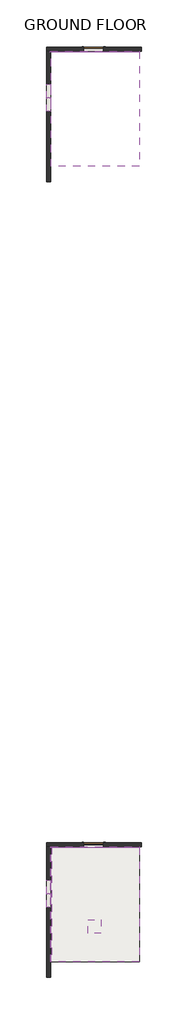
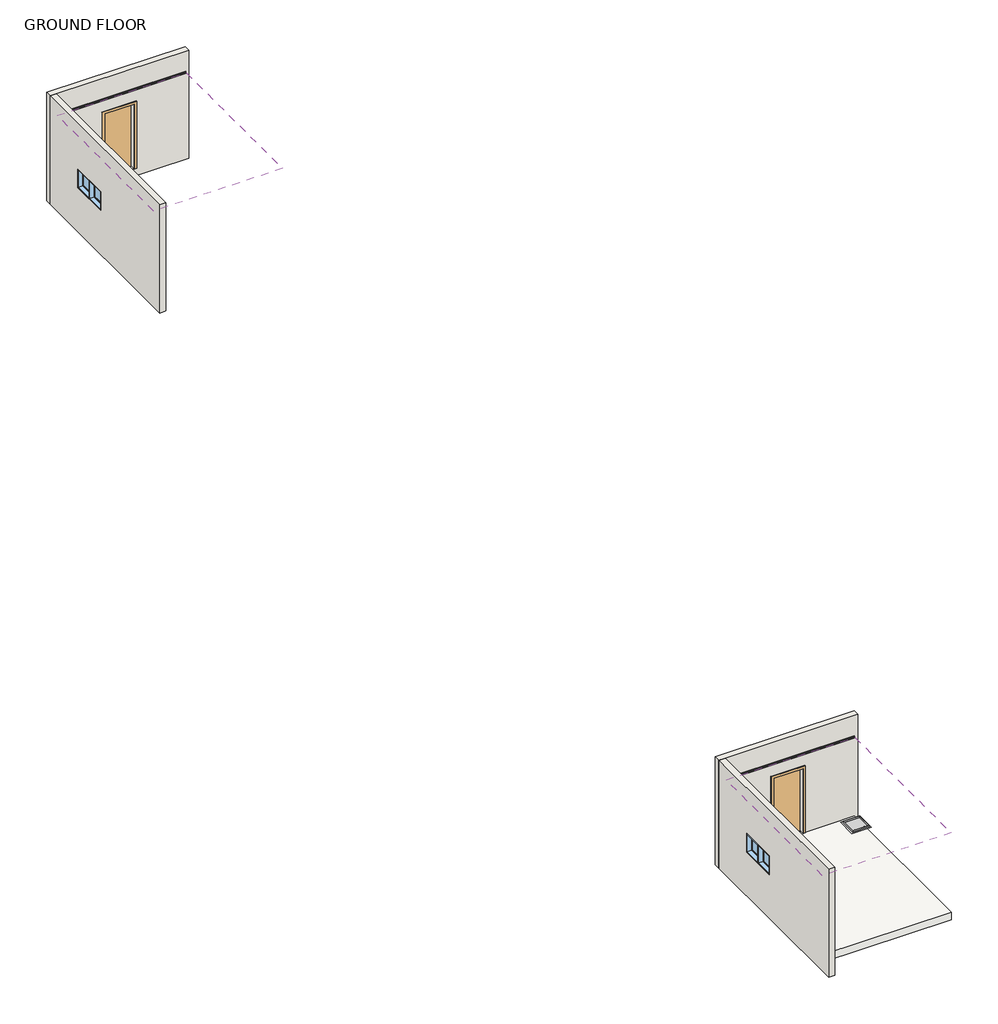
# One storey: 4 proxies, 4 walls, 4 windows, 3 coverings, 2 doors, 1 slab.
"""IFC4 building model written with IfcOpenShell, lengths in millimetres."""

from ifc_helpers import new_model, si_unit, point, frame, frame_2d, origin, place, context, project, spatial, polyline, circle_curve, trimmed, segment, composite_curve, outline, extrude, faceted_brep, transform, mapped, element, save
from components import m_single_flush_0915_x_2134mm_f5238887, m_fixed_0610_x_0610mm_09852ef8

model = new_model("IFC4")

# Units and contexts
model_context = context("Model", 3, world=origin())
ifc_project = project(units=[si_unit("LENGTHUNIT", "METRE", prefix="MILLI")], contexts=[model_context])

# Site, building, storey
site = spatial("IfcSite", under=ifc_project)
building = spatial("IfcBuilding", under=site)
storey = spatial("IfcBuildingStorey", under=building, Name="GROUND FLOOR", Elevation=0.0)

# Proxies
placement = place(None, origin())
element("IfcBuildingElementProxy", 1, Name="Ceiling_Access_HatchPanel_Parametric : Bottom Hung", ObjectType="Ceiling_Access_HatchPanel_Parametric : Bottom Hung", at=placement, inside=storey, context=model_context, shape_type="SolidModel", body=[
    faceted_brep([(107182.6212716, 2875.9489557, 2650.0), (107182.6212716, 2365.2489557, 2650.0), (107693.3212716, 2365.2489557, 2650.0), (107693.3212716, 2875.9489557, 2650.0), (107188.9712716, 2869.5989557, 2650.0), (107686.9712716, 2869.5989557, 2650.0), (107686.9712716, 2371.5989557, 2650.0), (107188.9712716, 2371.5989557, 2650.0), (107182.6212716, 2875.9489557, 2600.0), (107693.3212716, 2875.9489557, 2600.0), (107693.3212716, 2365.2489557, 2600.0), (107182.6212716, 2365.2489557, 2600.0), (107188.9712716, 2869.5989557, 2600.0), (107188.9712716, 2371.5989557, 2600.0), (107686.9712716, 2371.5989557, 2600.0), (107686.9712716, 2869.5989557, 2600.0), (107182.6212716, 2875.9489557, 2611.0), (107182.6212716, 2365.2489557, 2611.0), (107693.3212716, 2365.2489557, 2611.0), (107693.3212716, 2875.9489557, 2611.0)], [[[0, 1, 2, 3], [4, 5, 6, 7]], [[8, 9, 10, 11], [12, 13, 14, 15]], [[5, 4, 12, 15]], [[6, 5, 15, 14]], [[7, 6, 14, 13]], [[4, 7, 13, 12]], [[1, 0, 16, 8, 11, 17]], [[2, 1, 17, 11, 10, 18]], [[3, 2, 18, 10, 9, 19]], [[0, 3, 19, 9, 8, 16]]]),
    extrude(outline(polyline([(107188.9712716, 2869.5989557), (107686.9712716, 2869.5989557), (107686.9712716, 2371.5989557), (107188.9712716, 2371.5989557), (107188.9712716, 2869.5989557)])), frame((0.0, 0.0, 2593.65), z_axis=(0.0, 0.0, 1.0), x_axis=(1.0, 0.0, 0.0)), (0.0, 0.0, 1.0), 6.35),
    faceted_brep([(107188.9712716, 2869.5989557, 2600.0), (107188.9712716, 2869.5989557, 2590.475), (107686.9712716, 2869.5989557, 2590.475), (107686.9712716, 2869.5989557, 2600.0), (107686.9712716, 2371.5989557, 2590.475), (107686.9712716, 2371.5989557, 2600.0), (107188.9712716, 2371.5989557, 2590.475), (107188.9712716, 2371.5989557, 2600.0), (107725.0712716, 2907.6989557, 2590.475), (107725.0712716, 2333.4989557, 2590.475), (107150.8712716, 2333.4989557, 2590.475), (107150.8712716, 2907.6989557, 2590.475), (107138.1712716, 2920.3989557, 2600.0), (107138.1712716, 2320.7989557, 2600.0), (107737.7712716, 2320.7989557, 2600.0), (107737.7712716, 2920.3989557, 2600.0)], [[[0, 1, 2, 3]], [[3, 2, 4, 5]], [[5, 4, 6, 7]], [[8, 9, 10, 11], [1, 6, 4, 2]], [[12, 13, 14, 15], [3, 5, 7, 0]], [[7, 6, 1, 0]], [[11, 12, 15, 8]], [[8, 15, 14, 9]], [[9, 14, 13, 10]], [[10, 13, 12, 11]]]),
    extrude(outline(composite_curve([segment(trimmed(circle_curve(frame_2d((107278.9712716, 2437.9489557)), 10.0), [point((107278.9712716, 2427.9489557))], [point((107278.9712716, 2447.9489557))], False, "CARTESIAN"), True, "CONTINUOUS"), segment(trimmed(circle_curve(frame_2d((107278.9712716, 2437.9489557)), 10.0), [point((107278.9712716, 2447.9489557))], [point((107278.9712716, 2427.9489557))], False, "CARTESIAN"), True, "CONTINUOUS")], self_intersect=False)), frame((0.0, 0.0, 2593.65), z_axis=(0.0, 0.0, 1.0), x_axis=(1.0, 0.0, 0.0)), (0.0, 0.0, 1.0), 6.35),
    extrude(outline(composite_curve([segment(trimmed(circle_curve(frame_2d((107596.9712716, 2437.9489557)), 10.0), [point((107596.9712716, 2427.9489557))], [point((107596.9712716, 2447.9489557))], False, "CARTESIAN"), True, "CONTINUOUS"), segment(trimmed(circle_curve(frame_2d((107596.9712716, 2437.9489557)), 10.0), [point((107596.9712716, 2447.9489557))], [point((107596.9712716, 2427.9489557))], False, "CARTESIAN"), True, "CONTINUOUS")], self_intersect=False)), frame((0.0, 0.0, 2593.65), z_axis=(0.0, 0.0, 1.0), x_axis=(1.0, 0.0, 0.0)), (0.0, 0.0, 1.0), 6.35),
])
element("IfcBuildingElementProxy", 2, Name="TR01 : Pelican Systems Shadowline used with econogrid", ObjectType="TR01 : Pelican Systems Shadowline used with econogrid", at=placement, inside=storey, context=model_context, shape_type="Brep", body=[
    faceted_brep([(109460.7345529, 6217.9193804, 2639.0), (109460.7345529, 6216.9193804, 2639.0), (109460.7345529, 6216.9193804, 2619.0), (109460.7345529, 6196.9193804, 2619.0), (109460.7345529, 6196.9193804, 2600.0), (109460.7345529, 6176.9193804, 2600.0), (109460.7345529, 6176.9193804, 2599.0), (109460.7345529, 6197.9193804, 2599.0), (109460.7345529, 6197.9193804, 2618.0), (109460.7345529, 6217.9193804, 2618.0), (105415.7345529, 6217.9193804, 2639.0), (105415.7345529, 6217.9193804, 2618.0), (105415.7345529, 6197.9193804, 2618.0), (105415.7345529, 6197.9193804, 2599.0), (105415.7345529, 6176.9193804, 2599.0), (105415.7345529, 6176.9193804, 2600.0), (105415.7345529, 6196.9193804, 2600.0), (105415.7345529, 6196.9193804, 2619.0), (105415.7345529, 6216.9193804, 2619.0), (105415.7345529, 6216.9193804, 2639.0), (105443.7345529, 6217.9193804, 2618.0), (105443.7345529, 6217.9193804, 2634.0), (105442.7345529, 6217.9193804, 2634.0), (105442.7345529, 6217.9193804, 2618.0), (105443.7345529, 6197.9193804, 2618.0), (105463.7345529, 6197.9193804, 2599.0), (105463.7345529, 6197.9193804, 2614.0), (105443.7345529, 6197.9193804, 2614.0), (105463.7345529, 6176.9193804, 2599.0), (105443.7345529, 6196.9193804, 2619.0), (105443.7345529, 6196.9193804, 2614.0), (105463.7345529, 6196.9193804, 2614.0), (105463.7345529, 6196.9193804, 2600.0), (105442.7345529, 6216.9193804, 2634.0), (105442.7345529, 6216.9193804, 2619.0), (105442.7345529, 6196.9193804, 2619.0), (105442.7345529, 6196.9193804, 2613.0), (105442.7345529, 6197.9193804, 2613.0), (105442.7345529, 6197.9193804, 2618.0), (105462.7345529, 6196.9193804, 2613.0), (105462.7345529, 6197.9193804, 2613.0), (105462.7345529, 6196.9193804, 2600.0), (105462.7345529, 6176.9193804, 2600.0), (105462.7345529, 6176.9193804, 2599.0), (105462.7345529, 6197.9193804, 2599.0), (105463.7345529, 6176.9193804, 2600.0), (105443.7345529, 6216.9193804, 2619.0), (105443.7345529, 6216.9193804, 2634.0)], [[[0, 1, 2, 3, 4, 5, 6, 7, 8, 9]], [[10, 11, 12, 13, 14, 15, 16, 17, 18, 19]], [[0, 9, 20, 21, 22, 23, 11, 10]], [[9, 8, 24, 20]], [[8, 7, 25, 26, 27, 24]], [[7, 6, 28, 25]], [[4, 3, 29, 30, 31, 32]], [[22, 33, 34, 35, 36, 37, 38, 23]], [[37, 36, 39, 40]], [[40, 39, 41, 42, 43, 44]], [[31, 26, 25, 28, 45, 32]], [[26, 31, 30, 27]], [[27, 30, 29, 46, 47, 21, 20, 24]], [[6, 5, 45, 28]], [[5, 4, 32, 45]], [[3, 2, 46, 29]], [[2, 1, 19, 18, 34, 33, 47, 46]], [[1, 0, 10, 19]], [[12, 11, 23, 38]], [[18, 17, 35, 34]], [[33, 22, 21, 47]], [[13, 12, 38, 37, 40, 44]], [[14, 13, 44, 43]], [[17, 16, 41, 39, 36, 35]], [[15, 14, 43, 42]], [[16, 15, 42, 41]]]),
])
element("IfcBuildingElementProxy", 3, Name="TR01 : Pelican Systems Shadowline used with econogrid", ObjectType="TR01 : Pelican Systems Shadowline used with econogrid", at=placement, inside=storey, context=model_context, shape_type="Brep", body=[
    faceted_brep([(105442.7345529, 6217.9193804, 2634.0), (105443.7345529, 6217.9193804, 2634.0), (105443.7345529, 6217.9193804, 2618.0), (105443.7345529, 6217.9193804, 2614.0), (105463.7345529, 6217.9193804, 2614.0), (105463.7345529, 6217.9193804, 2595.0), (105483.7345529, 6217.9193804, 2595.0), (105483.7345529, 6217.9193804, 2594.0), (105462.7345529, 6217.9193804, 2594.0), (105462.7345529, 6217.9193804, 2613.0), (105442.7345529, 6217.9193804, 2613.0), (105442.7345529, 6217.9193804, 2618.0), (105442.7345529, 1012.9193804, 2634.0), (105442.7345529, 1012.9193804, 2613.0), (105462.7345529, 1012.9193804, 2613.0), (105462.7345529, 1012.9193804, 2594.0), (105483.7345529, 1012.9193804, 2594.0), (105483.7345529, 1012.9193804, 2595.0), (105463.7345529, 1012.9193804, 2595.0), (105463.7345529, 1012.9193804, 2614.0), (105443.7345529, 1012.9193804, 2614.0), (105443.7345529, 1012.9193804, 2634.0), (105442.7345529, 6197.9193804, 2613.0), (105442.7345529, 6196.9193804, 2613.0), (105442.7345529, 6216.9193804, 2634.0), (105462.7345529, 6197.9193804, 2613.0), (105462.7345529, 6196.9193804, 2613.0), (105463.7345529, 6197.9193804, 2614.0), (105463.7345529, 6196.9193804, 2614.0), (105443.7345529, 6197.9193804, 2614.0), (105443.7345529, 6196.9193804, 2614.0), (105443.7345529, 6216.9193804, 2634.0)], [[[0, 1, 2, 3, 4, 5, 6, 7, 8, 9, 10, 11]], [[12, 13, 14, 15, 16, 17, 18, 19, 20, 21]], [[10, 22, 23, 13, 12, 24, 0, 11]], [[9, 25, 26, 14, 13, 23, 22, 10]], [[8, 15, 14, 26, 25, 9]], [[7, 16, 15, 8]], [[4, 27, 28, 19, 18, 5]], [[6, 17, 16, 7]], [[5, 18, 17, 6]], [[3, 29, 30, 20, 19, 28, 27, 4]], [[1, 31, 21, 20, 30, 29, 3, 2]], [[0, 24, 12, 21, 31, 1]]]),
])
element("IfcBuildingElementProxy", 4, Name="TR01 : Pelican Systems Shadowline used with econogrid", ObjectType="TR01 : Pelican Systems Shadowline used with econogrid", at=placement, inside=storey, context=model_context, shape_type="SweptSolid", body=[
    extrude(outline(polyline([(42217.9193804, 2639.0), (42217.9193804, 2618.0), (42197.9193804, 2618.0), (42197.9193804, 2599.0), (42176.9193804, 2599.0), (42176.9193804, 2600.0), (42196.9193804, 2600.0), (42196.9193804, 2619.0), (42216.9193804, 2619.0), (42216.9193804, 2639.0), (42217.9193804, 2639.0)])), frame((105430.7345529, 0.0, 0.0), z_axis=(1.0, 0.0, 0.0), x_axis=(0.0, 1.0, 0.0)), (0.0, 0.0, 1.0), 4030.0),
])

# Coverings
element("IfcCovering", 5, ObjectType="_C2.3 - 12mm FLUSHPLASTER CEILING (UNDER CONCRETE SOFFIT)", at=placement, inside=storey, context=model_context, shape_type="SweptSolid", body=[
    extrude(outline(polyline([(105463.7345529, 6197.9193804), (109466.7345529, 6197.9193804), (109466.7345529, 1012.9193804), (105463.7345529, 1012.9193804), (105463.7345529, 6197.9193804)]), holes=[polyline([(107182.6212716, 2875.9489557), (107182.6212716, 2365.2489557), (107693.3212716, 2365.2489557), (107693.3212716, 2875.9489557), (107182.6212716, 2875.9489557)])]), frame((0.0, 0.0, 2600.0), z_axis=(0.0, 0.0, 1.0), x_axis=(1.0, 0.0, 0.0)), (0.0, 0.0, 1.0), 11.0),
])
element("IfcCovering", 6, ObjectType="AMF Thermatex® Star - 600x600mm", at=placement, inside=storey, context=model_context, shape_type="SweptSolid", body=[
    extrude(outline(polyline([(109470.7345529, 42196.9193804), (109470.7345529, 37012.9193804), (105463.7345529, 37012.9193804), (105463.7345529, 42196.9193804), (109470.7345529, 42196.9193804)])), frame((0.0, 0.0, 2600.0), z_axis=(0.0, 0.0, 1.0), x_axis=(1.0, 0.0, 0.0)), (0.0, 0.0, 1.0), 51.0),
])
element("IfcCovering", 7, ObjectType="AMF Thermatex® Star - 600x600mm 2", at=placement, inside=storey, context=model_context, shape_type="SweptSolid", body=[
    extrude(outline(polyline([(109466.7345529, 6197.9193804), (109466.7345529, 1012.9193804), (105463.7345529, 1012.9193804), (105463.7345529, 6197.9193804), (109466.7345529, 6197.9193804)])), frame((0.0, 0.0, 2600.0), z_axis=(0.0, 0.0, 1.0), x_axis=(1.0, 0.0, 0.0)), (0.0, 0.0, 1.0), 16.0),
])

# Doors
m_single_flush_0915_x_2134mm_shape = m_single_flush_0915_x_2134mm_f5238887(model_context)
element("IfcDoor", 8, ObjectType="M_Single-Flush : 0915 x 2134mm", at=placement, inside=storey, context=model_context, shape_type="MappedRepresentation", body=[
    mapped(m_single_flush_0915_x_2134mm_shape, transform((107394.7345529, 6312.9193804, 0.0), x_axis=(1.0, 0.0, 0.0), y_axis=(0.0, 1.0, 0.0), z_axis=(0.0, 0.0, 1.0))),
])
element("IfcDoor", 9, ObjectType="M_Single-Flush : 0915 x 2134mm", at=placement, inside=storey, context=model_context, shape_type="MappedRepresentation", body=[
    mapped(m_single_flush_0915_x_2134mm_shape, transform((107394.7345529, 42312.9193804, 0.0), x_axis=(1.0, 0.0, 0.0), y_axis=(0.0, 1.0, 0.0), z_axis=(0.0, 0.0, 1.0))),
])

# Slab
element("IfcSlab", 10, ObjectType="Generic Floor - 250mm", at=placement, inside=storey, context=model_context, shape_type="Brep", body=[
    faceted_brep([(105366.7345529, 6312.9193804, -250.0), (109466.7345529, 6312.9193804, -250.0), (109466.7345529, 6217.9193804, -250.0), (109466.7345529, 1012.9193804, -250.0), (105366.7345529, 1012.9193804, -250.0), (105366.7345529, 6217.9193804, -250.0), (105366.7345529, 6312.9193804, 0.0), (105366.7345529, 6217.9193804, 0.0), (105366.7345529, 1012.9193804, 0.0), (109466.7345529, 1012.9193804, 0.0), (109466.7345529, 6217.9193804, 0.0), (109466.7345529, 6312.9193804, 0.0), (107852.2345529, 6312.9193804, 0.0), (106937.2345529, 6312.9193804, 0.0)], [[[0, 1, 2, 3, 4, 5]], [[6, 7, 8, 9, 10, 11, 12, 13]], [[1, 0, 6, 13, 12, 11]], [[3, 2, 1, 11, 10, 9]], [[4, 3, 9, 8]], [[0, 5, 4, 8, 7, 6]]]),
])

# Walls
element("IfcWall", 11, ObjectType="190mm MAXI BLOCK- plastered", at=placement, inside=storey, context=model_context, shape_type="Brep", body=[
    faceted_brep([(109561.7345529, 6217.9193804, -250.0), (109561.7345529, 6217.9193804, 3300.0), (105442.7345529, 6217.9193804, 3300.0), (105252.7345529, 6217.9193804, 3300.0), (105252.7345529, 6217.9193804, -250.0), (105366.7345529, 6217.9193804, -250.0), (105366.7345529, 6217.9193804, 0.0), (106937.2345529, 6217.9193804, 0.0), (106937.2345529, 6217.9193804, 2134.0), (107852.2345529, 6217.9193804, 2134.0), (107852.2345529, 6217.9193804, 0.0), (109466.7345529, 6217.9193804, 0.0), (109466.7345529, 6217.9193804, -250.0), (109561.7345529, 6407.9193804, -250.0), (105252.7345529, 6407.9193804, -250.0), (105252.7345529, 6407.9193804, 3300.0), (109561.7345529, 6407.9193804, 3300.0), (106937.2345529, 6407.9193804, 0.0), (107852.2345529, 6407.9193804, 0.0), (107852.2345529, 6407.9193804, 2134.0), (106937.2345529, 6407.9193804, 2134.0), (109466.7345529, 6312.9193804, -250.0), (105366.7345529, 6312.9193804, -250.0), (106937.2345529, 6312.9193804, 0.0), (107852.2345529, 6312.9193804, 0.0), (105366.7345529, 6312.9193804, 0.0), (109466.7345529, 6312.9193804, 0.0)], [[[0, 1, 2, 3, 4, 5, 6, 7, 8, 9, 10, 11, 12]], [[13, 14, 15, 16], [17, 18, 19, 20]], [[14, 13, 0, 12, 21, 22, 5, 4]], [[1, 0, 13, 16]], [[3, 2, 1, 16, 15]], [[18, 17, 23, 24]], [[19, 18, 24, 10, 9]], [[20, 19, 9, 8]], [[17, 20, 8, 7, 23]], [[25, 23, 7, 6]], [[24, 26, 11, 10]], [[25, 22, 21, 26, 24, 23]], [[22, 25, 6, 5]], [[26, 21, 12, 11]], [[4, 3, 15, 14]]]),
])
element("IfcWall", 12, ObjectType="190mm MAXI BLOCK- plastered", at=placement, inside=storey, context=model_context, shape_type="Brep", body=[
    faceted_brep([(105442.7345529, 312.9193804, -250.0), (105442.7345529, 6217.9193804, -250.0), (105442.7345529, 6217.9193804, 3300.0), (105442.7345529, 312.9193804, 3300.0), (105442.7345529, 3497.9193804, 1810.0), (105442.7345529, 4717.9193804, 1810.0), (105442.7345529, 4717.9193804, 1200.0), (105442.7345529, 3497.9193804, 1200.0), (105252.7345529, 6217.9193804, -250.0), (105252.7345529, 312.9193804, -250.0), (105252.7345529, 312.9193804, 3300.0), (105252.7345529, 6217.9193804, 3300.0), (105252.7345529, 3497.9193804, 1200.0), (105252.7345529, 4717.9193804, 1200.0), (105252.7345529, 4717.9193804, 1810.0), (105252.7345529, 3497.9193804, 1810.0), (105366.7345529, 6217.9193804, -250.0)], [[[0, 1, 2, 3], [4, 5, 6, 7]], [[8, 9, 10, 11], [12, 13, 14, 15]], [[1, 0, 9, 8, 16]], [[3, 2, 11, 10]], [[0, 3, 10, 9]], [[2, 1, 16, 8, 11]], [[14, 13, 6, 5]], [[14, 5, 4, 15]], [[12, 7, 6, 13]], [[15, 4, 7, 12]]]),
])
element("IfcWall", 13, ObjectType="190mm MAXI BLOCK- plastered", at=placement, inside=storey, context=model_context, shape_type="Brep", body=[
    faceted_brep([(105252.7345529, 42217.9193804, -250.0), (105442.7345529, 42217.9193804, -250.0), (109561.7345529, 42217.9193804, -250.0), (109561.7345529, 42217.9193804, 3300.0), (105442.7345529, 42217.9193804, 3300.0), (105252.7345529, 42217.9193804, 3300.0), (106937.2345529, 42217.9193804, 0.0), (106937.2345529, 42217.9193804, 2134.0), (107852.2345529, 42217.9193804, 2134.0), (107852.2345529, 42217.9193804, 0.0), (105252.7345529, 42407.9193804, -250.0), (105252.7345529, 42407.9193804, 3300.0), (109561.7345529, 42407.9193804, 3300.0), (109561.7345529, 42407.9193804, -250.0), (106937.2345529, 42407.9193804, 0.0), (107852.2345529, 42407.9193804, 0.0), (107852.2345529, 42407.9193804, 2134.0), (106937.2345529, 42407.9193804, 2134.0)], [[[0, 1, 2, 3, 4, 5], [6, 7, 8, 9]], [[10, 11, 12, 13], [14, 15, 16, 17]], [[2, 1, 0, 10, 13]], [[3, 2, 13, 12]], [[5, 4, 3, 12, 11]], [[15, 14, 6, 9]], [[16, 15, 9, 8]], [[17, 16, 8, 7]], [[14, 17, 7, 6]], [[0, 5, 11, 10]]]),
])
element("IfcWall", 14, ObjectType="190mm MAXI BLOCK- plastered", at=placement, inside=storey, context=model_context, shape_type="Brep", body=[
    faceted_brep([(105442.7345529, 36312.9193804, -250.0), (105442.7345529, 42217.9193804, -250.0), (105442.7345529, 42217.9193804, 3300.0), (105442.7345529, 36312.9193804, 3300.0), (105442.7345529, 39497.9193804, 1810.0), (105442.7345529, 40717.9193804, 1810.0), (105442.7345529, 40717.9193804, 1200.0), (105442.7345529, 39497.9193804, 1200.0), (105252.7345529, 42217.9193804, -250.0), (105252.7345529, 36312.9193804, -250.0), (105252.7345529, 36312.9193804, 3300.0), (105252.7345529, 42217.9193804, 3300.0), (105252.7345529, 39497.9193804, 1200.0), (105252.7345529, 40717.9193804, 1200.0), (105252.7345529, 40717.9193804, 1810.0), (105252.7345529, 39497.9193804, 1810.0), (105366.7345529, 42217.9193804, -250.0)], [[[0, 1, 2, 3], [4, 5, 6, 7]], [[8, 9, 10, 11], [12, 13, 14, 15]], [[1, 0, 9, 8, 16]], [[3, 2, 11, 10]], [[0, 3, 10, 9]], [[2, 1, 16, 8, 11]], [[14, 13, 6, 5]], [[14, 5, 4, 15]], [[12, 7, 6, 13]], [[15, 4, 7, 12]]]),
])

# Windows
m_fixed_0610_x_0610mm_shape = m_fixed_0610_x_0610mm_09852ef8(model_context)
element("IfcWindow", 15, ObjectType="M_Fixed : 0610 x 0610mm", at=placement, inside=storey, context=model_context, shape_type="MappedRepresentation", body=[
    mapped(m_fixed_0610_x_0610mm_shape, transform((105334.7345529, 4412.9193804, 285.0), x_axis=(0.0, -1.0, 0.0), y_axis=(1.0, 0.0, 0.0), z_axis=(0.0, 0.0, 1.0))),
])
element("IfcWindow", 16, ObjectType="M_Fixed : 0610 x 0610mm", at=placement, inside=storey, context=model_context, shape_type="MappedRepresentation", body=[
    mapped(m_fixed_0610_x_0610mm_shape, transform((105334.7345529, 3802.9193804, 285.0), x_axis=(0.0, -1.0, 0.0), y_axis=(1.0, 0.0, 0.0), z_axis=(0.0, 0.0, 1.0))),
])
element("IfcWindow", 17, ObjectType="M_Fixed : 0610 x 0610mm", at=placement, inside=storey, context=model_context, shape_type="MappedRepresentation", body=[
    mapped(m_fixed_0610_x_0610mm_shape, transform((105334.7345529, 40412.9193804, 285.0), x_axis=(0.0, -1.0, 0.0), y_axis=(1.0, 0.0, 0.0), z_axis=(0.0, 0.0, 1.0))),
])
element("IfcWindow", 18, ObjectType="M_Fixed : 0610 x 0610mm", at=placement, inside=storey, context=model_context, shape_type="MappedRepresentation", body=[
    mapped(m_fixed_0610_x_0610mm_shape, transform((105334.7345529, 39802.9193804, 285.0), x_axis=(0.0, -1.0, 0.0), y_axis=(1.0, 0.0, 0.0), z_axis=(0.0, 0.0, 1.0))),
])

save(model, "model.ifc")
